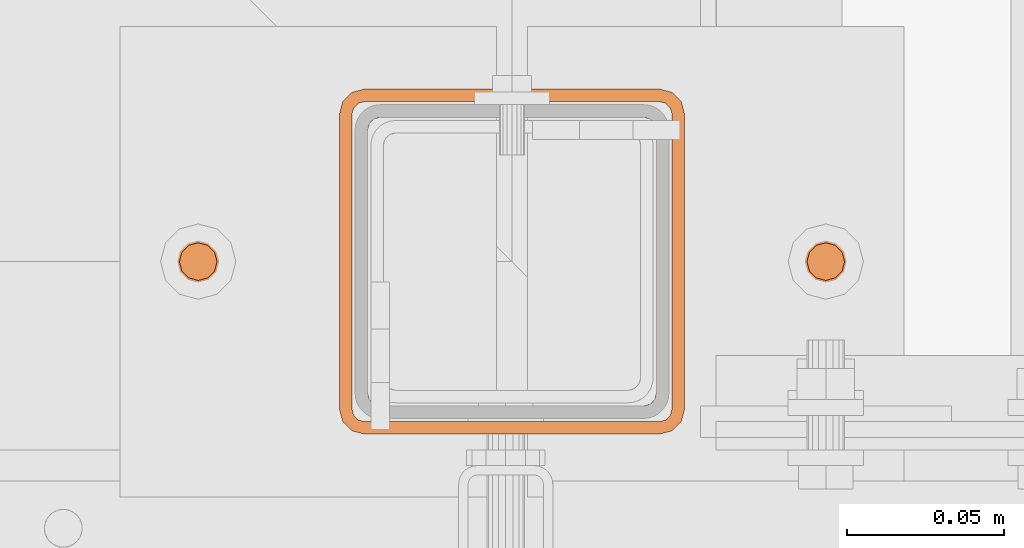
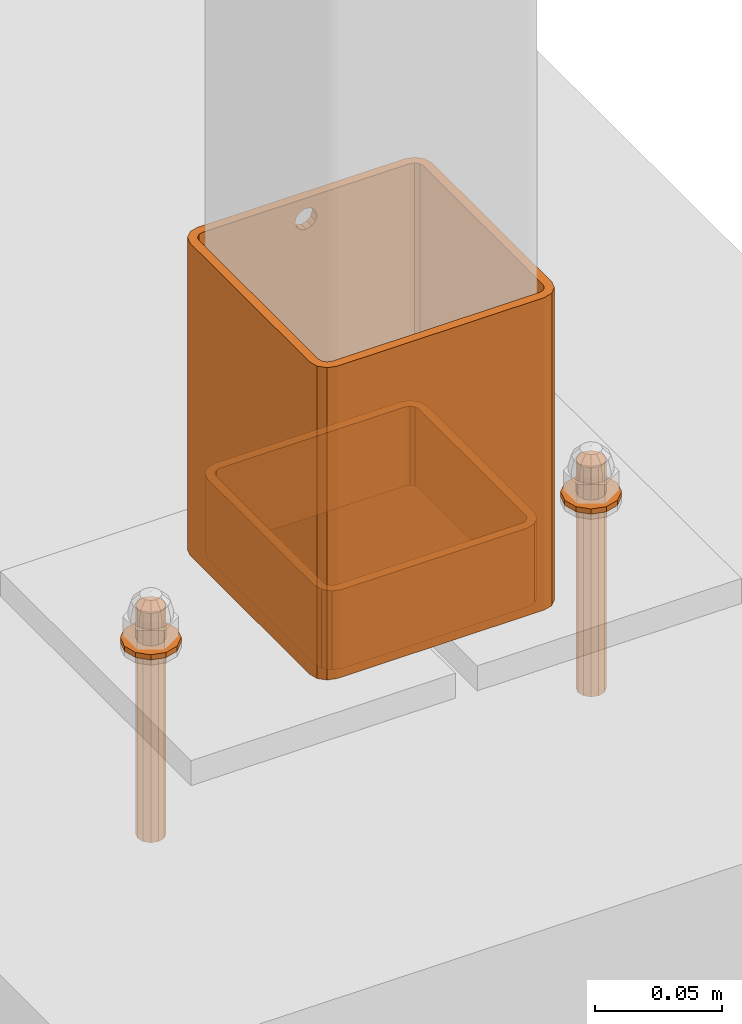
# One storey, part 91 of 116: 4 proxies.
"""IFC2X3 building model written with IfcOpenShell, lengths in millimetres."""

from ifc_helpers import new_model, entity, si_unit, converted_unit, origin_with_axes, place, context, project, spatial, faceted_brep, material, element, save


model = new_model("IFC2X3")

# Units and contexts
model_context = context("Model", 3, precision=1e-09, world=origin_with_axes())
ifc_project = project(units=[si_unit("LENGTHUNIT", "METRE", prefix="MILLI"), si_unit("AREAUNIT", "SQUARE_METRE"), si_unit("VOLUMEUNIT", "CUBIC_METRE"), converted_unit("PLANEANGLEUNIT", "DEGREE", entity("IfcPlaneAngleMeasure", 0.01745329), si_unit("PLANEANGLEUNIT", "RADIAN"), dimensions=[0, 0, 0, 0, 0, 0, 0])], contexts=[model_context])

# Site, building, storey
site_placement = place(None, origin_with_axes())
site = spatial("IfcSite", under=ifc_project, at=site_placement, Name="Site", CompositionType="ELEMENT")
building_placement = place(site_placement, origin_with_axes())
building = spatial("IfcBuilding", under=site, at=building_placement, Name="Struktur 1", CompositionType="ELEMENT")
storey_placement = place(building_placement, origin_with_axes())
storey = spatial("IfcBuildingStorey", under=building, at=storey_placement, Name="Default Storey", CompositionType="ELEMENT", Elevation=0.0)

# Proxies
ifc_material = material(Name="Kein")
proxy_1_placement = place(None, origin_with_axes())
element("IfcBuildingElementProxy", 1, at=proxy_1_placement, inside=storey, material=ifc_material, ObjectType="-", context=model_context, shape_type="Brep", body=[
    faceted_brep([(58211.049134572, 9086.894781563, -1997.0), (58211.049134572, 9086.894781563, -1977.0), (58212.513236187, 9088.358883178, -1977.0), (58212.513236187, 9088.358883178, -1997.0), (58213.049134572, 9083.430679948, -1997.0), (58209.049134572, 9082.358883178, -1997.0), (58125.049134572, 9082.358883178, -1997.0), (58121.049134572, 9083.430679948, -1997.0), (58118.120931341, 9086.358883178, -1997.0), (58117.049134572, 9090.358883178, -1997.0), (58117.049134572, 9174.358883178, -1997.0), (58118.120931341, 9178.358883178, -1997.0), (58121.049134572, 9181.287086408, -1997.0), (58125.049134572, 9182.358883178, -1997.0), (58209.049134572, 9182.358883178, -1997.0), (58213.049134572, 9181.287086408, -1997.0), (58215.977337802, 9178.358883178, -1997.0), (58217.049134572, 9174.358883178, -1997.0), (58217.049134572, 9090.358883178, -1997.0), (58215.977337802, 9086.358883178, -1997.0), (58125.049134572, 9086.358883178, -1997.0), (58209.049134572, 9086.358883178, -1997.0), (58213.049134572, 9090.358883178, -1997.0), (58213.049134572, 9174.358883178, -1997.0), (58212.513236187, 9176.358883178, -1997.0), (58211.049134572, 9177.822984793, -1997.0), (58209.049134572, 9178.358883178, -1997.0), (58125.049134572, 9178.358883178, -1997.0), (58123.049134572, 9177.822984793, -1997.0), (58121.585032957, 9176.358883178, -1997.0), (58121.049134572, 9174.358883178, -1997.0), (58121.049134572, 9090.358883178, -1997.0), (58121.585032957, 9088.358883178, -1997.0), (58123.049134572, 9086.894781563, -1997.0), (58213.049134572, 9083.430679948, -1977.0), (58215.977337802, 9086.358883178, -1977.0), (58217.049134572, 9090.358883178, -1977.0), (58217.049134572, 9174.358883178, -1977.0), (58215.977337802, 9178.358883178, -1977.0), (58213.049134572, 9181.287086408, -1977.0), (58209.049134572, 9182.358883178, -1977.0), (58125.049134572, 9182.358883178, -1977.0), (58121.049134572, 9181.287086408, -1977.0), (58118.120931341, 9178.358883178, -1977.0), (58117.049134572, 9174.358883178, -1977.0), (58117.049134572, 9090.358883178, -1977.0), (58118.120931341, 9086.358883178, -1977.0), (58121.049134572, 9083.430679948, -1977.0), (58125.049134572, 9082.358883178, -1977.0), (58209.049134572, 9082.358883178, -1977.0), (58213.049134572, 9090.358883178, -1977.0), (58209.049134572, 9086.358883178, -1977.0), (58125.049134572, 9086.358883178, -1977.0), (58123.049134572, 9086.894781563, -1977.0), (58121.585032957, 9088.358883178, -1977.0), (58121.049134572, 9090.358883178, -1977.0), (58121.049134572, 9174.358883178, -1977.0), (58121.585032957, 9176.358883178, -1977.0), (58123.049134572, 9177.822984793, -1977.0), (58125.049134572, 9178.358883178, -1977.0), (58209.049134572, 9178.358883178, -1977.0), (58211.049134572, 9177.822984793, -1977.0), (58212.513236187, 9176.358883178, -1977.0), (58213.049134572, 9174.358883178, -1977.0)], [[[0, 1, 2, 3]], [[4, 5, 6, 7, 8, 9, 10, 11, 12, 13, 14, 15, 16, 17, 18, 19], [20, 21, 0, 3, 22, 23, 24, 25, 26, 27, 28, 29, 30, 31, 32, 33]], [[34, 35, 36, 37, 38, 39, 40, 41, 42, 43, 44, 45, 46, 47, 48, 49], [50, 2, 1, 51, 52, 53, 54, 55, 56, 57, 58, 59, 60, 61, 62, 63]], [[34, 4, 19, 35]], [[1, 0, 21, 51]], [[4, 34, 49, 5]], [[35, 19, 18, 36]], [[3, 2, 50, 22]], [[21, 20, 52, 51]], [[49, 48, 6, 5]], [[18, 17, 37, 36]], [[50, 63, 23, 22]], [[52, 20, 33, 53]], [[6, 48, 47, 7]], [[37, 17, 16, 38]], [[23, 63, 62, 24]], [[53, 33, 32, 54]], [[7, 47, 46, 8]], [[38, 16, 15, 39]], [[24, 62, 61, 25]], [[54, 32, 31, 55]], [[25, 61, 60, 26]], [[8, 46, 45, 9]], [[39, 15, 14, 40]], [[60, 59, 27, 26]], [[31, 30, 56, 55]], [[45, 44, 10, 9]], [[58, 28, 27, 59]], [[14, 13, 41, 40]], [[28, 58, 57, 29]], [[29, 57, 56, 30]], [[10, 44, 43, 11]], [[41, 13, 12, 42]], [[11, 43, 42, 12]]]),
    faceted_brep([(58211.049134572, 9086.894781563, -1977.0), (58211.049134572, 9086.894781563, -1967.0), (58212.513236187, 9088.358883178, -1967.0), (58212.513236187, 9088.358883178, -1977.0), (58213.049134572, 9083.430679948, -1977.0), (58209.049134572, 9082.358883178, -1977.0), (58125.049134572, 9082.358883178, -1977.0), (58121.049134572, 9083.430679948, -1977.0), (58118.120931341, 9086.358883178, -1977.0), (58117.049134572, 9090.358883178, -1977.0), (58117.049134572, 9174.358883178, -1977.0), (58118.120931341, 9178.358883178, -1977.0), (58121.049134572, 9181.287086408, -1977.0), (58125.049134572, 9182.358883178, -1977.0), (58209.049134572, 9182.358883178, -1977.0), (58213.049134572, 9181.287086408, -1977.0), (58215.977337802, 9178.358883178, -1977.0), (58217.049134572, 9174.358883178, -1977.0), (58217.049134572, 9090.358883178, -1977.0), (58215.977337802, 9086.358883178, -1977.0), (58125.049134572, 9086.358883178, -1977.0), (58209.049134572, 9086.358883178, -1977.0), (58213.049134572, 9090.358883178, -1977.0), (58213.049134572, 9174.358883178, -1977.0), (58212.513236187, 9176.358883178, -1977.0), (58211.049134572, 9177.822984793, -1977.0), (58209.049134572, 9178.358883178, -1977.0), (58125.049134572, 9178.358883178, -1977.0), (58123.049134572, 9177.822984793, -1977.0), (58121.585032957, 9176.358883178, -1977.0), (58121.049134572, 9174.358883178, -1977.0), (58121.049134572, 9090.358883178, -1977.0), (58121.585032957, 9088.358883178, -1977.0), (58123.049134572, 9086.894781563, -1977.0), (58213.049134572, 9083.430679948, -1967.0), (58215.977337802, 9086.358883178, -1967.0), (58217.049134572, 9090.358883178, -1967.0), (58217.049134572, 9174.358883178, -1967.0), (58215.977337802, 9178.358883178, -1967.0), (58213.049134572, 9181.287086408, -1967.0), (58209.049134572, 9182.358883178, -1967.0), (58125.049134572, 9182.358883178, -1967.0), (58121.049134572, 9181.287086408, -1967.0), (58118.120931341, 9178.358883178, -1967.0), (58117.049134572, 9174.358883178, -1967.0), (58117.049134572, 9090.358883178, -1967.0), (58118.120931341, 9086.358883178, -1967.0), (58121.049134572, 9083.430679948, -1967.0), (58125.049134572, 9082.358883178, -1967.0), (58209.049134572, 9082.358883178, -1967.0), (58213.049134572, 9090.358883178, -1967.0), (58209.049134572, 9086.358883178, -1967.0), (58125.049134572, 9086.358883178, -1967.0), (58123.049134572, 9086.894781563, -1967.0), (58121.585032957, 9088.358883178, -1967.0), (58121.049134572, 9090.358883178, -1967.0), (58121.049134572, 9174.358883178, -1967.0), (58121.585032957, 9176.358883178, -1967.0), (58123.049134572, 9177.822984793, -1967.0), (58125.049134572, 9178.358883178, -1967.0), (58209.049134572, 9178.358883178, -1967.0), (58211.049134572, 9177.822984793, -1967.0), (58212.513236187, 9176.358883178, -1967.0), (58213.049134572, 9174.358883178, -1967.0)], [[[0, 1, 2, 3]], [[4, 5, 6, 7, 8, 9, 10, 11, 12, 13, 14, 15, 16, 17, 18, 19], [20, 21, 0, 3, 22, 23, 24, 25, 26, 27, 28, 29, 30, 31, 32, 33]], [[34, 35, 36, 37, 38, 39, 40, 41, 42, 43, 44, 45, 46, 47, 48, 49], [50, 2, 1, 51, 52, 53, 54, 55, 56, 57, 58, 59, 60, 61, 62, 63]], [[34, 4, 19, 35]], [[1, 0, 21, 51]], [[4, 34, 49, 5]], [[35, 19, 18, 36]], [[3, 2, 50, 22]], [[21, 20, 52, 51]], [[49, 48, 6, 5]], [[18, 17, 37, 36]], [[50, 63, 23, 22]], [[52, 20, 33, 53]], [[6, 48, 47, 7]], [[37, 17, 16, 38]], [[23, 63, 62, 24]], [[53, 33, 32, 54]], [[7, 47, 46, 8]], [[38, 16, 15, 39]], [[24, 62, 61, 25]], [[54, 32, 31, 55]], [[25, 61, 60, 26]], [[8, 46, 45, 9]], [[39, 15, 14, 40]], [[60, 59, 27, 26]], [[31, 30, 56, 55]], [[45, 44, 10, 9]], [[58, 28, 27, 59]], [[14, 13, 41, 40]], [[28, 58, 57, 29]], [[29, 57, 56, 30]], [[10, 44, 43, 11]], [[41, 13, 12, 42]], [[11, 43, 42, 12]]]),
    faceted_brep([(58211.049134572, 9086.894781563, -1967.0), (58211.049134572, 9086.894781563, -1962.0), (58212.513236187, 9088.358883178, -1962.0), (58212.513236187, 9088.358883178, -1967.0), (58213.049134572, 9083.430679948, -1967.0), (58209.049134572, 9082.358883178, -1967.0), (58125.049134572, 9082.358883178, -1967.0), (58121.049134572, 9083.430679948, -1967.0), (58118.120931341, 9086.358883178, -1967.0), (58117.049134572, 9090.358883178, -1967.0), (58117.049134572, 9174.358883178, -1967.0), (58118.120931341, 9178.358883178, -1967.0), (58121.049134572, 9181.287086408, -1967.0), (58125.049134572, 9182.358883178, -1967.0), (58209.049134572, 9182.358883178, -1967.0), (58213.049134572, 9181.287086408, -1967.0), (58215.977337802, 9178.358883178, -1967.0), (58217.049134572, 9174.358883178, -1967.0), (58217.049134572, 9090.358883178, -1967.0), (58215.977337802, 9086.358883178, -1967.0), (58125.049134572, 9086.358883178, -1967.0), (58209.049134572, 9086.358883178, -1967.0), (58213.049134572, 9090.358883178, -1967.0), (58213.049134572, 9174.358883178, -1967.0), (58212.513236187, 9176.358883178, -1967.0), (58211.049134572, 9177.822984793, -1967.0), (58209.049134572, 9178.358883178, -1967.0), (58125.049134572, 9178.358883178, -1967.0), (58123.049134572, 9177.822984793, -1967.0), (58121.585032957, 9176.358883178, -1967.0), (58121.049134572, 9174.358883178, -1967.0), (58121.049134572, 9090.358883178, -1967.0), (58121.585032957, 9088.358883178, -1967.0), (58123.049134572, 9086.894781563, -1967.0), (58213.049134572, 9083.430679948, -1962.0), (58215.977337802, 9086.358883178, -1962.0), (58217.049134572, 9090.358883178, -1962.0), (58217.049134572, 9174.358883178, -1962.0), (58215.977337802, 9178.358883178, -1962.0), (58213.049134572, 9181.287086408, -1962.0), (58209.049134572, 9182.358883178, -1962.0), (58125.049134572, 9182.358883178, -1962.0), (58121.049134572, 9181.287086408, -1962.0), (58118.120931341, 9178.358883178, -1962.0), (58117.049134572, 9174.358883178, -1962.0), (58117.049134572, 9090.358883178, -1962.0), (58118.120931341, 9086.358883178, -1962.0), (58121.049134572, 9083.430679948, -1962.0), (58125.049134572, 9082.358883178, -1962.0), (58209.049134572, 9082.358883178, -1962.0), (58213.049134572, 9090.358883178, -1962.0), (58209.049134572, 9086.358883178, -1962.0), (58125.049134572, 9086.358883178, -1962.0), (58123.049134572, 9086.894781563, -1962.0), (58121.585032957, 9088.358883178, -1962.0), (58121.049134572, 9090.358883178, -1962.0), (58121.049134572, 9174.358883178, -1962.0), (58121.585032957, 9176.358883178, -1962.0), (58123.049134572, 9177.822984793, -1962.0), (58125.049134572, 9178.358883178, -1962.0), (58209.049134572, 9178.358883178, -1962.0), (58211.049134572, 9177.822984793, -1962.0), (58212.513236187, 9176.358883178, -1962.0), (58213.049134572, 9174.358883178, -1962.0)], [[[0, 1, 2, 3]], [[4, 5, 6, 7, 8, 9, 10, 11, 12, 13, 14, 15, 16, 17, 18, 19], [20, 21, 0, 3, 22, 23, 24, 25, 26, 27, 28, 29, 30, 31, 32, 33]], [[34, 35, 36, 37, 38, 39, 40, 41, 42, 43, 44, 45, 46, 47, 48, 49], [50, 2, 1, 51, 52, 53, 54, 55, 56, 57, 58, 59, 60, 61, 62, 63]], [[34, 4, 19, 35]], [[1, 0, 21, 51]], [[4, 34, 49, 5]], [[35, 19, 18, 36]], [[3, 2, 50, 22]], [[21, 20, 52, 51]], [[49, 48, 6, 5]], [[18, 17, 37, 36]], [[50, 63, 23, 22]], [[52, 20, 33, 53]], [[6, 48, 47, 7]], [[37, 17, 16, 38]], [[23, 63, 62, 24]], [[53, 33, 32, 54]], [[7, 47, 46, 8]], [[38, 16, 15, 39]], [[24, 62, 61, 25]], [[54, 32, 31, 55]], [[25, 61, 60, 26]], [[8, 46, 45, 9]], [[39, 15, 14, 40]], [[60, 59, 27, 26]], [[31, 30, 56, 55]], [[45, 44, 10, 9]], [[58, 28, 27, 59]], [[14, 13, 41, 40]], [[28, 58, 57, 29]], [[29, 57, 56, 30]], [[10, 44, 43, 11]], [[41, 13, 12, 42]], [[11, 43, 42, 12]]]),
    faceted_brep([(58211.049134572, 9086.894781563, -1962.0), (58211.049134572, 9086.894781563, -1959.0), (58212.513236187, 9088.358883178, -1959.0), (58212.513236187, 9088.358883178, -1962.0), (58213.049134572, 9083.430679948, -1962.0), (58209.049134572, 9082.358883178, -1962.0), (58125.049134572, 9082.358883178, -1962.0), (58121.049134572, 9083.430679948, -1962.0), (58118.120931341, 9086.358883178, -1962.0), (58117.049134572, 9090.358883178, -1962.0), (58117.049134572, 9174.358883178, -1962.0), (58118.120931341, 9178.358883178, -1962.0), (58121.049134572, 9181.287086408, -1962.0), (58125.049134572, 9182.358883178, -1962.0), (58209.049134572, 9182.358883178, -1962.0), (58213.049134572, 9181.287086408, -1962.0), (58215.977337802, 9178.358883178, -1962.0), (58217.049134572, 9174.358883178, -1962.0), (58217.049134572, 9090.358883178, -1962.0), (58215.977337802, 9086.358883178, -1962.0), (58125.049134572, 9086.358883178, -1962.0), (58209.049134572, 9086.358883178, -1962.0), (58213.049134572, 9090.358883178, -1962.0), (58213.049134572, 9174.358883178, -1962.0), (58212.513236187, 9176.358883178, -1962.0), (58211.049134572, 9177.822984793, -1962.0), (58209.049134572, 9178.358883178, -1962.0), (58125.049134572, 9178.358883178, -1962.0), (58123.049134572, 9177.822984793, -1962.0), (58121.585032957, 9176.358883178, -1962.0), (58121.049134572, 9174.358883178, -1962.0), (58121.049134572, 9090.358883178, -1962.0), (58121.585032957, 9088.358883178, -1962.0), (58123.049134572, 9086.894781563, -1962.0), (58213.049134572, 9083.430679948, -1959.0), (58215.977337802, 9086.358883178, -1959.0), (58217.049134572, 9090.358883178, -1959.0), (58217.049134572, 9174.358883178, -1959.0), (58215.977337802, 9178.358883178, -1959.0), (58213.049134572, 9181.287086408, -1959.0), (58209.049134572, 9182.358883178, -1959.0), (58125.049134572, 9182.358883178, -1959.0), (58121.049134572, 9181.287086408, -1959.0), (58118.120931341, 9178.358883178, -1959.0), (58117.049134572, 9174.358883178, -1959.0), (58117.049134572, 9090.358883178, -1959.0), (58118.120931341, 9086.358883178, -1959.0), (58121.049134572, 9083.430679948, -1959.0), (58125.049134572, 9082.358883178, -1959.0), (58209.049134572, 9082.358883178, -1959.0), (58213.049134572, 9090.358883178, -1959.0), (58209.049134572, 9086.358883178, -1959.0), (58125.049134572, 9086.358883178, -1959.0), (58123.049134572, 9086.894781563, -1959.0), (58121.585032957, 9088.358883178, -1959.0), (58121.049134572, 9090.358883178, -1959.0), (58121.049134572, 9174.358883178, -1959.0), (58121.585032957, 9176.358883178, -1959.0), (58123.049134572, 9177.822984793, -1959.0), (58125.049134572, 9178.358883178, -1959.0), (58209.049134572, 9178.358883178, -1959.0), (58211.049134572, 9177.822984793, -1959.0), (58212.513236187, 9176.358883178, -1959.0), (58213.049134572, 9174.358883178, -1959.0)], [[[0, 1, 2, 3]], [[4, 5, 6, 7, 8, 9, 10, 11, 12, 13, 14, 15, 16, 17, 18, 19], [20, 21, 0, 3, 22, 23, 24, 25, 26, 27, 28, 29, 30, 31, 32, 33]], [[34, 35, 36, 37, 38, 39, 40, 41, 42, 43, 44, 45, 46, 47, 48, 49], [50, 2, 1, 51, 52, 53, 54, 55, 56, 57, 58, 59, 60, 61, 62, 63]], [[34, 4, 19, 35]], [[1, 0, 21, 51]], [[4, 34, 49, 5]], [[35, 19, 18, 36]], [[3, 2, 50, 22]], [[21, 20, 52, 51]], [[49, 48, 6, 5]], [[18, 17, 37, 36]], [[50, 63, 23, 22]], [[52, 20, 33, 53]], [[6, 48, 47, 7]], [[37, 17, 16, 38]], [[23, 63, 62, 24]], [[53, 33, 32, 54]], [[7, 47, 46, 8]], [[38, 16, 15, 39]], [[24, 62, 61, 25]], [[54, 32, 31, 55]], [[25, 61, 60, 26]], [[8, 46, 45, 9]], [[39, 15, 14, 40]], [[60, 59, 27, 26]], [[31, 30, 56, 55]], [[45, 44, 10, 9]], [[58, 28, 27, 59]], [[14, 13, 41, 40]], [[28, 58, 57, 29]], [[29, 57, 56, 30]], [[10, 44, 43, 11]], [[41, 13, 12, 42]], [[11, 43, 42, 12]]]),
])
proxy_2_placement = place(None, origin_with_axes())
element("IfcBuildingElementProxy", 2, at=proxy_2_placement, inside=storey, material=ifc_material, ObjectType="-", context=model_context, shape_type="Brep", body=[
    faceted_brep([(58220.977337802, 9081.358883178, -1997.0), (58220.977337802, 9081.358883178, -1847.0), (58218.049134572, 9078.430679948, -1847.0), (58218.049134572, 9078.430679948, -1997.0), (58222.049134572, 9085.358883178, -1847.0), (58222.049134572, 9179.358883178, -1847.0), (58220.977337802, 9183.358883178, -1847.0), (58218.049134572, 9186.287086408, -1847.0), (58214.049134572, 9187.358883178, -1847.0), (58120.049134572, 9187.358883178, -1847.0), (58116.049134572, 9186.287086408, -1847.0), (58113.120931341, 9183.358883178, -1847.0), (58112.049134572, 9179.358883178, -1847.0), (58112.049134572, 9085.358883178, -1847.0), (58113.120931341, 9081.358883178, -1847.0), (58116.049134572, 9078.430679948, -1847.0), (58120.049134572, 9077.358883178, -1847.0), (58214.049134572, 9077.358883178, -1847.0), (58218.049134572, 9085.358883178, -1847.0), (58217.513236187, 9083.358883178, -1847.0), (58216.049134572, 9081.894781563, -1847.0), (58214.049134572, 9081.358883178, -1847.0), (58120.049134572, 9081.358883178, -1847.0), (58118.049134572, 9081.894781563, -1847.0), (58116.585032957, 9083.358883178, -1847.0), (58116.049134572, 9085.358883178, -1847.0), (58116.049134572, 9179.358883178, -1847.0), (58116.585032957, 9181.358883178, -1847.0), (58118.049134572, 9182.822984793, -1847.0), (58120.049134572, 9183.358883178, -1847.0), (58214.049134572, 9183.358883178, -1847.0), (58216.049134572, 9182.822984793, -1847.0), (58217.513236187, 9181.358883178, -1847.0), (58218.049134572, 9179.358883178, -1847.0), (58216.049134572, 9081.894781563, -1997.0), (58217.513236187, 9083.358883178, -1997.0), (58222.049134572, 9179.358883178, -1997.0), (58222.049134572, 9085.358883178, -1997.0), (58214.049134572, 9077.358883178, -1997.0), (58120.049134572, 9077.358883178, -1997.0), (58116.049134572, 9078.430679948, -1997.0), (58113.120931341, 9081.358883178, -1997.0), (58112.049134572, 9085.358883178, -1997.0), (58112.049134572, 9179.358883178, -1997.0), (58113.120931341, 9183.358883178, -1997.0), (58116.049134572, 9186.287086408, -1997.0), (58120.049134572, 9187.358883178, -1997.0), (58214.049134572, 9187.358883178, -1997.0), (58218.049134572, 9186.287086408, -1997.0), (58220.977337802, 9183.358883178, -1997.0), (58218.049134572, 9085.358883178, -1997.0), (58218.049134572, 9179.358883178, -1997.0), (58217.513236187, 9181.358883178, -1997.0), (58216.049134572, 9182.822984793, -1997.0), (58214.049134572, 9183.358883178, -1997.0), (58120.049134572, 9183.358883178, -1997.0), (58118.049134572, 9182.822984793, -1997.0), (58116.585032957, 9181.358883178, -1997.0), (58116.049134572, 9179.358883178, -1997.0), (58116.049134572, 9085.358883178, -1997.0), (58116.585032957, 9083.358883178, -1997.0), (58118.049134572, 9081.894781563, -1997.0), (58120.049134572, 9081.358883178, -1997.0), (58214.049134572, 9081.358883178, -1997.0), (58172.050134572, 9187.358883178, -1857.0), (58172.050134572, 9183.358883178, -1857.0), (58171.380127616, 9183.358883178, -1854.4995), (58171.380127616, 9187.358883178, -1854.4995), (58171.380127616, 9187.358883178, -1859.5005), (58171.380127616, 9183.358883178, -1859.5005), (58169.549634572, 9183.358883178, -1852.669006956), (58169.549634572, 9187.358883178, -1852.669006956), (58169.549634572, 9187.358883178, -1861.330993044), (58167.049134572, 9187.358883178, -1851.999), (58164.548634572, 9187.358883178, -1852.669006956), (58162.718141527, 9187.358883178, -1854.4995), (58162.048134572, 9187.358883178, -1857.0), (58162.718141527, 9187.358883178, -1859.5005), (58164.548634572, 9187.358883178, -1861.330993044), (58167.049134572, 9187.358883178, -1862.001), (58169.549634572, 9183.358883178, -1861.330993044), (58167.049134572, 9183.358883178, -1862.001), (58164.548634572, 9183.358883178, -1861.330993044), (58162.718141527, 9183.358883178, -1859.5005), (58162.048134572, 9183.358883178, -1857.0), (58162.718141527, 9183.358883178, -1854.4995), (58164.548634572, 9183.358883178, -1852.669006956), (58167.049134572, 9183.358883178, -1851.999)], [[[0, 1, 2, 3]], [[1, 4, 5, 6, 7, 8, 9, 10, 11, 12, 13, 14, 15, 16, 17, 2], [18, 19, 20, 21, 22, 23, 24, 25, 26, 27, 28, 29, 30, 31, 32, 33]], [[34, 20, 19, 35]], [[36, 37, 0, 3, 38, 39, 40, 41, 42, 43, 44, 45, 46, 47, 48, 49], [35, 50, 51, 52, 53, 54, 55, 56, 57, 58, 59, 60, 61, 62, 63, 34]], [[1, 0, 37, 4]], [[20, 34, 63, 21]], [[3, 2, 17, 38]], [[35, 19, 18, 50]], [[37, 36, 5, 4]], [[63, 62, 22, 21]], [[17, 16, 39, 38]], [[18, 33, 51, 50]], [[5, 36, 49, 6]], [[22, 62, 61, 23]], [[39, 16, 15, 40]], [[64, 65, 66, 67]], [[51, 33, 32, 52]], [[65, 64, 68, 69]], [[67, 66, 70, 71]], [[8, 47, 46, 9], [72, 68, 64, 67, 71, 73, 74, 75, 76, 77, 78, 79]], [[6, 49, 48, 7]], [[52, 32, 31, 53]], [[30, 29, 55, 54], [70, 66, 65, 69, 80, 81, 82, 83, 84, 85, 86, 87]], [[23, 61, 60, 24]], [[40, 15, 14, 41]], [[71, 70, 87, 73]], [[73, 87, 86, 74]], [[30, 54, 53, 31]], [[69, 68, 72, 80]], [[74, 86, 85, 75]], [[7, 48, 47, 8]], [[80, 72, 79, 81]], [[81, 79, 78, 82]], [[24, 60, 59, 25]], [[41, 14, 13, 42]], [[75, 85, 84, 76]], [[83, 77, 76, 84]], [[82, 78, 77, 83]], [[59, 58, 26, 25]], [[13, 12, 43, 42]], [[26, 58, 57, 27]], [[55, 29, 28, 56]], [[56, 28, 27, 57]], [[43, 12, 11, 44]], [[9, 46, 45, 10]], [[44, 11, 10, 45]]]),
])
proxy_3_placement = place(None, origin_with_axes())
element("IfcBuildingElementProxy", 3, at=proxy_3_placement, inside=storey, material=ifc_material, ObjectType="-", context=model_context, shape_type="Brep", body=[
    faceted_brep([(58270.049134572, 9137.555035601, -1992.0), (58270.049134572, 9137.555035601, -1976.5), (58272.245286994, 9135.358883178, -1976.5), (58272.245286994, 9135.358883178, -1992.0), (58277.441439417, 9126.358883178, -1992.0), (58279.049134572, 9132.358883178, -1992.0), (58277.441439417, 9138.358883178, -1992.0), (58273.049134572, 9142.751188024, -1992.0), (58267.049134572, 9144.358883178, -1992.0), (58261.049134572, 9142.751188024, -1992.0), (58256.656829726, 9138.358883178, -1992.0), (58255.049134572, 9132.358883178, -1992.0), (58256.656829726, 9126.358883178, -1992.0), (58261.049134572, 9121.966578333, -1992.0), (58267.049134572, 9120.358883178, -1992.0), (58273.049134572, 9121.966578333, -1992.0), (58273.049134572, 9132.358883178, -1992.0), (58272.245286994, 9129.358883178, -1992.0), (58270.049134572, 9127.162730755, -1992.0), (58267.049134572, 9126.358883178, -1992.0), (58264.049134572, 9127.162730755, -1992.0), (58261.852982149, 9129.358883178, -1992.0), (58261.049134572, 9132.358883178, -1992.0), (58261.852982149, 9135.358883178, -1992.0), (58264.049134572, 9137.555035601, -1992.0), (58267.049134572, 9138.358883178, -1992.0), (58267.049134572, 9138.358883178, -1976.5), (58277.441439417, 9138.358883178, -1994.5), (58273.049134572, 9142.751188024, -1994.5), (58261.852982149, 9129.358883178, -1976.5), (58264.049134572, 9127.162730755, -1976.5), (58267.049134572, 9126.358883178, -1976.5), (58270.049134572, 9127.162730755, -1976.5), (58272.245286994, 9129.358883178, -1976.5), (58273.049134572, 9132.358883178, -1976.5), (58264.049134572, 9137.555035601, -1976.5), (58261.852982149, 9135.358883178, -1976.5), (58261.049134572, 9132.358883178, -1976.5), (58261.049134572, 9142.751188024, -1994.5), (58267.049134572, 9144.358883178, -1994.5), (58279.049134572, 9132.358883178, -1994.5), (58277.441439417, 9126.358883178, -1994.5), (58273.049134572, 9121.966578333, -1994.5), (58267.049134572, 9120.358883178, -1994.5), (58261.049134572, 9121.966578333, -1994.5), (58256.656829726, 9126.358883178, -1994.5), (58255.049134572, 9132.358883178, -1994.5), (58256.656829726, 9138.358883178, -1994.5), (58267.049134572, 9138.358883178, -1994.5), (58264.049134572, 9137.555035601, -1994.5), (58261.852982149, 9135.358883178, -1994.5), (58261.049134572, 9132.358883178, -1994.5), (58261.852982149, 9129.358883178, -1994.5), (58264.049134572, 9127.162730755, -1994.5), (58267.049134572, 9126.358883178, -1994.5), (58270.049134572, 9127.162730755, -1994.5), (58272.245286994, 9129.358883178, -1994.5), (58273.049134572, 9132.358883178, -1994.5), (58272.245286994, 9135.358883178, -1994.5), (58270.049134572, 9137.555035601, -1994.5), (58270.049134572, 9137.555035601, -2086.5), (58267.049134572, 9138.358883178, -2086.5), (58272.245286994, 9135.358883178, -2086.5), (58273.049134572, 9132.358883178, -2086.5), (58272.245286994, 9129.358883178, -2086.5), (58270.049134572, 9127.162730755, -2086.5), (58267.049134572, 9126.358883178, -2086.5), (58264.049134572, 9127.162730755, -2086.5), (58261.852982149, 9129.358883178, -2086.5), (58261.049134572, 9132.358883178, -2086.5), (58261.852982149, 9135.358883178, -2086.5), (58264.049134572, 9137.555035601, -2086.5)], [[[0, 1, 2, 3]], [[4, 5, 6, 7, 8, 9, 10, 11, 12, 13, 14, 15], [3, 16, 17, 18, 19, 20, 21, 22, 23, 24, 25, 0]], [[1, 0, 25, 26]], [[6, 27, 28, 7]], [[29, 30, 31, 32, 33, 34, 2, 1, 26, 35, 36, 37]], [[38, 39, 28, 27, 40, 41, 42, 43, 44, 45, 46, 47], [48, 49, 50, 51, 52, 53, 54, 55, 56, 57, 58, 59]], [[27, 6, 5, 40]], [[3, 2, 34, 16]], [[7, 28, 39, 8]], [[26, 25, 24, 35]], [[59, 60, 61, 48]], [[58, 62, 60, 59]], [[57, 63, 62, 58]], [[56, 64, 63, 57]], [[40, 5, 4, 41]], [[16, 34, 33, 17]], [[35, 24, 23, 36]], [[64, 65, 66, 67, 68, 69, 70, 71, 61, 60, 62, 63]], [[48, 61, 71, 49]], [[8, 39, 38, 9]], [[64, 56, 55, 65]], [[36, 23, 22, 37]], [[65, 55, 54, 66]], [[41, 4, 15, 42]], [[17, 33, 32, 18]], [[70, 50, 49, 71]], [[9, 38, 47, 10]], [[37, 22, 21, 29]], [[50, 70, 69, 51]], [[68, 52, 51, 69]], [[67, 53, 52, 68]], [[66, 54, 53, 67]], [[42, 15, 14, 43]], [[18, 32, 31, 19]], [[10, 47, 46, 11]], [[30, 20, 19, 31]], [[29, 21, 20, 30]], [[43, 14, 13, 44]], [[11, 46, 45, 12]], [[44, 13, 12, 45]]]),
])
proxy_4_placement = place(None, origin_with_axes())
element("IfcBuildingElementProxy", 4, at=proxy_4_placement, inside=storey, material=ifc_material, ObjectType="-", context=model_context, shape_type="Brep", body=[
    faceted_brep([(58070.049134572, 9137.555035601, -1992.0), (58070.049134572, 9137.555035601, -1976.5), (58072.245286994, 9135.358883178, -1976.5), (58072.245286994, 9135.358883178, -1992.0), (58077.441439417, 9126.358883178, -1992.0), (58079.049134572, 9132.358883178, -1992.0), (58077.441439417, 9138.358883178, -1992.0), (58073.049134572, 9142.751188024, -1992.0), (58067.049134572, 9144.358883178, -1992.0), (58061.049134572, 9142.751188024, -1992.0), (58056.656829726, 9138.358883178, -1992.0), (58055.049134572, 9132.358883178, -1992.0), (58056.656829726, 9126.358883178, -1992.0), (58061.049134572, 9121.966578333, -1992.0), (58067.049134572, 9120.358883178, -1992.0), (58073.049134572, 9121.966578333, -1992.0), (58073.049134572, 9132.358883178, -1992.0), (58072.245286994, 9129.358883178, -1992.0), (58070.049134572, 9127.162730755, -1992.0), (58067.049134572, 9126.358883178, -1992.0), (58064.049134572, 9127.162730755, -1992.0), (58061.852982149, 9129.358883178, -1992.0), (58061.049134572, 9132.358883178, -1992.0), (58061.852982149, 9135.358883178, -1992.0), (58064.049134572, 9137.555035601, -1992.0), (58067.049134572, 9138.358883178, -1992.0), (58067.049134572, 9138.358883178, -1976.5), (58077.441439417, 9138.358883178, -1994.5), (58073.049134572, 9142.751188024, -1994.5), (58061.852982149, 9129.358883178, -1976.5), (58064.049134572, 9127.162730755, -1976.5), (58067.049134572, 9126.358883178, -1976.5), (58070.049134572, 9127.162730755, -1976.5), (58072.245286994, 9129.358883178, -1976.5), (58073.049134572, 9132.358883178, -1976.5), (58064.049134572, 9137.555035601, -1976.5), (58061.852982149, 9135.358883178, -1976.5), (58061.049134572, 9132.358883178, -1976.5), (58061.049134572, 9142.751188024, -1994.5), (58067.049134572, 9144.358883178, -1994.5), (58079.049134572, 9132.358883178, -1994.5), (58077.441439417, 9126.358883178, -1994.5), (58073.049134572, 9121.966578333, -1994.5), (58067.049134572, 9120.358883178, -1994.5), (58061.049134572, 9121.966578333, -1994.5), (58056.656829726, 9126.358883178, -1994.5), (58055.049134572, 9132.358883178, -1994.5), (58056.656829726, 9138.358883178, -1994.5), (58067.049134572, 9138.358883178, -1994.5), (58064.049134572, 9137.555035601, -1994.5), (58061.852982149, 9135.358883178, -1994.5), (58061.049134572, 9132.358883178, -1994.5), (58061.852982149, 9129.358883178, -1994.5), (58064.049134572, 9127.162730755, -1994.5), (58067.049134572, 9126.358883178, -1994.5), (58070.049134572, 9127.162730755, -1994.5), (58072.245286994, 9129.358883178, -1994.5), (58073.049134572, 9132.358883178, -1994.5), (58072.245286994, 9135.358883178, -1994.5), (58070.049134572, 9137.555035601, -1994.5), (58070.049134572, 9137.555035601, -2086.5), (58067.049134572, 9138.358883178, -2086.5), (58072.245286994, 9135.358883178, -2086.5), (58073.049134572, 9132.358883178, -2086.5), (58072.245286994, 9129.358883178, -2086.5), (58070.049134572, 9127.162730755, -2086.5), (58067.049134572, 9126.358883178, -2086.5), (58064.049134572, 9127.162730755, -2086.5), (58061.852982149, 9129.358883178, -2086.5), (58061.049134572, 9132.358883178, -2086.5), (58061.852982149, 9135.358883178, -2086.5), (58064.049134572, 9137.555035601, -2086.5)], [[[0, 1, 2, 3]], [[4, 5, 6, 7, 8, 9, 10, 11, 12, 13, 14, 15], [3, 16, 17, 18, 19, 20, 21, 22, 23, 24, 25, 0]], [[1, 0, 25, 26]], [[6, 27, 28, 7]], [[29, 30, 31, 32, 33, 34, 2, 1, 26, 35, 36, 37]], [[38, 39, 28, 27, 40, 41, 42, 43, 44, 45, 46, 47], [48, 49, 50, 51, 52, 53, 54, 55, 56, 57, 58, 59]], [[27, 6, 5, 40]], [[3, 2, 34, 16]], [[7, 28, 39, 8]], [[26, 25, 24, 35]], [[59, 60, 61, 48]], [[58, 62, 60, 59]], [[57, 63, 62, 58]], [[56, 64, 63, 57]], [[40, 5, 4, 41]], [[16, 34, 33, 17]], [[35, 24, 23, 36]], [[64, 65, 66, 67, 68, 69, 70, 71, 61, 60, 62, 63]], [[48, 61, 71, 49]], [[8, 39, 38, 9]], [[64, 56, 55, 65]], [[36, 23, 22, 37]], [[65, 55, 54, 66]], [[41, 4, 15, 42]], [[17, 33, 32, 18]], [[70, 50, 49, 71]], [[9, 38, 47, 10]], [[37, 22, 21, 29]], [[50, 70, 69, 51]], [[68, 52, 51, 69]], [[67, 53, 52, 68]], [[66, 54, 53, 67]], [[42, 15, 14, 43]], [[18, 32, 31, 19]], [[10, 47, 46, 11]], [[30, 20, 19, 31]], [[29, 21, 20, 30]], [[43, 14, 13, 44]], [[11, 46, 45, 12]], [[44, 13, 12, 45]]]),
])

save(model, "model.ifc")
